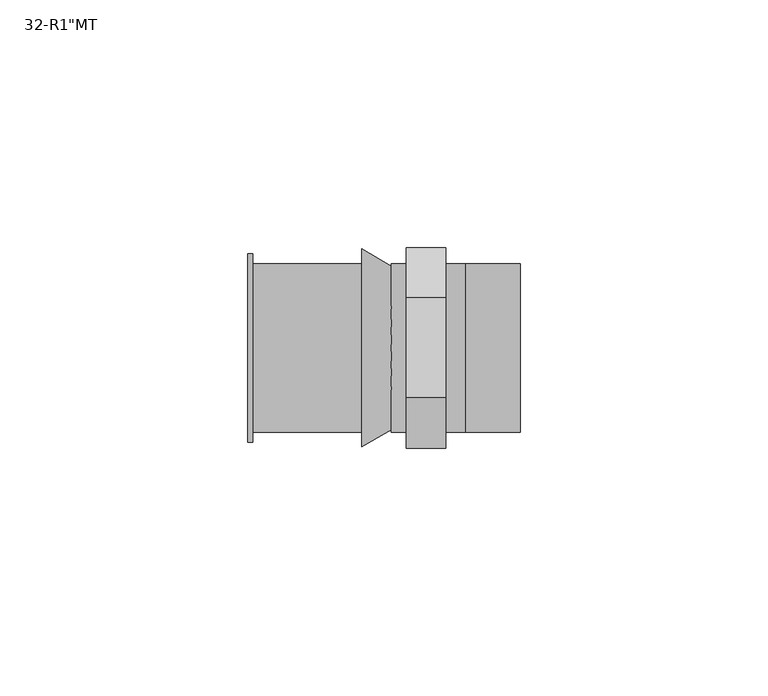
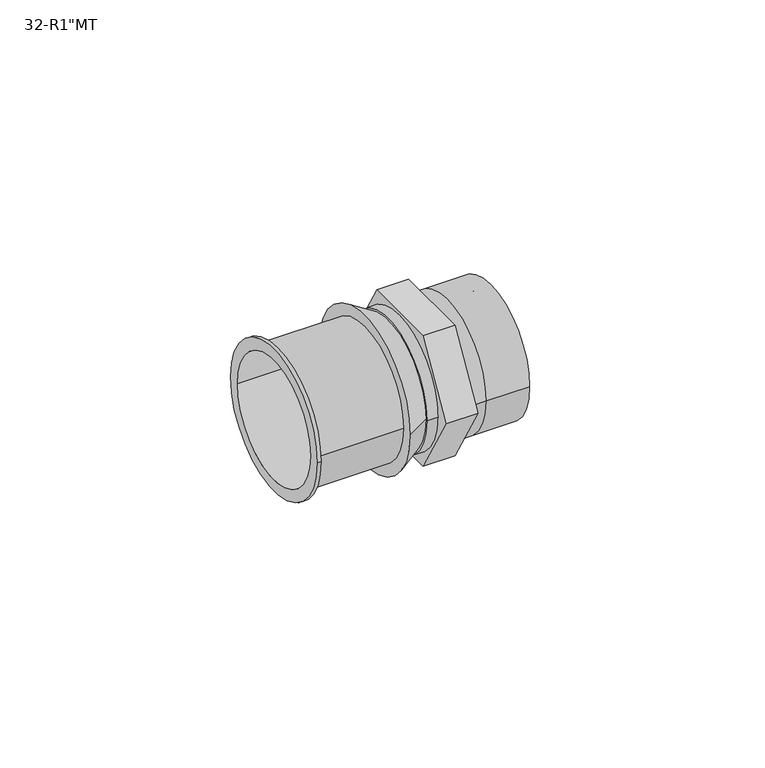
"""IFC4 building model written with IfcOpenShell, lengths in millimetres: pipe fitting geometry."""

from ifc_helpers import new_model, si_unit, point, frame, origin, origin_2d, place, context, project, spatial, polyline, circle_curve, trimmed, segment, composite_curve, outline, extrude, source, transform, mapped, element, save
from ifc_brep_helpers import plane_surface, cylinder_surface, revolved_surface, advanced_brep


def pipe_fitting_895879c1(model_context):
    return source(origin(), model_context, "Body", "SolidModel", [
        advanced_brep(
        [(-4.0, -20.2072594, 0.0), (-4.0, -10.1036297, 17.5), (-4.0, 10.1036297, 17.5), (-4.0, 20.2072594, 0.0), (-4.0, 10.1036297, -17.5), (-4.0, -10.1036297, -17.5), (4.0, -20.2072594, 0.0), (4.0, -10.1036297, -17.5), (4.0, 10.1036297, -17.5), (4.0, 20.2072594, 0.0), (4.0, 10.1036297, 17.5), (4.0, -10.1036297, 17.5), (4.0, -17.0, 0.0), (4.0, 17.0, 0.0), (19.0, -17.0, 0.0), (19.0, 17.0, 0.0), (19.0, -13.0, 0.0), (19.0, 13.0, 0.0), (8.0, 17.0, 0.0), (8.0, -17.0, 0.0), (8.0, 13.0, 0.0), (8.0, -13.0, 0.0)],
        [
            (0, 1),
            (1, 2),
            (2, 3),
            (3, 4),
            (4, 5),
            (5, 0),
            (6, 7),
            (7, 8),
            (8, 9),
            (9, 10),
            (10, 11),
            (11, 6),
            (12, 13, circle_curve(frame((4.0, 0.0, 0.0), z_axis=(-1.0, 0.0, 0.0), x_axis=(0.0, 1.0, 0.0)), 17.0)),
            (13, 12, circle_curve(frame((4.0, 0.0, 0.0), z_axis=(-1.0, 0.0, 0.0), x_axis=(0.0, 1.0, 0.0)), 17.0)),
            (0, 6),
            (11, 1),
            (10, 2),
            (9, 3),
            (8, 4),
            (7, 5),
            (14, 15, circle_curve(frame((19.0, 0.0, 0.0), z_axis=(1.0, 0.0, 0.0), x_axis=(0.0, 1.0, 0.0)), 17.0)),
            (15, 14, circle_curve(frame((19.0, 0.0, 0.0), z_axis=(1.0, 0.0, 0.0), x_axis=(0.0, 1.0, 0.0)), 17.0)),
            (16, 17, circle_curve(frame((19.0, 0.0, 0.0), z_axis=(-1.0, 0.0, 0.0), x_axis=(0.0, 1.0, 0.0)), 13.0)),
            (17, 16, circle_curve(frame((19.0, 0.0, 0.0), z_axis=(-1.0, 0.0, 0.0), x_axis=(0.0, 1.0, 0.0)), 13.0)),
            (15, 18),
            (18, 19, circle_curve(frame((8.0, 0.0, 0.0), z_axis=(1.0, 0.0, 0.0), x_axis=(0.0, 1.0, 0.0)), 17.0)),
            (19, 14),
            (19, 18, circle_curve(frame((8.0, 0.0, 0.0), z_axis=(1.0, 0.0, 0.0), x_axis=(0.0, 1.0, 0.0)), 17.0)),
            (17, 20),
            (20, 21, circle_curve(frame((8.0, 0.0, 0.0), z_axis=(-1.0, 0.0, 0.0), x_axis=(0.0, 1.0, 0.0)), 13.0)),
            (21, 16),
            (21, 20, circle_curve(frame((8.0, 0.0, 0.0), z_axis=(-1.0, 0.0, 0.0), x_axis=(0.0, 1.0, 0.0)), 13.0)),
            (12, 19),
            (18, 13),
        ],
        [
            plane_surface(frame((-4.0, 0.0, 0.0), z_axis=(-1.0, 0.0, 0.0), x_axis=(0.0, 0.0, 1.0))),
            plane_surface(frame((4.0, 0.0, 0.0), z_axis=(1.0, 0.0, 0.0), x_axis=(0.0, 0.0, 1.0))),
            plane_surface(frame((-4.0, -20.2072594, 0.0), z_axis=(0.0, -0.8660254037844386, 0.5000000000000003), x_axis=(1.0, 0.0, 0.0))),
            plane_surface(frame((-4.0, -10.1036297, 17.5), z_axis=(0.0, 0.0, 1.0), x_axis=(1.0, 0.0, 0.0))),
            plane_surface(frame((-4.0, 10.1036297, 17.5), z_axis=(0.0, 0.8660254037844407, 0.49999999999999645), x_axis=(1.0, 0.0, 0.0))),
            plane_surface(frame((-4.0, 20.2072594, 0.0), z_axis=(0.0, 0.8660254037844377, -0.5000000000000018), x_axis=(1.0, 0.0, 0.0))),
            plane_surface(frame((-4.0, 10.1036297, -17.5), z_axis=(0.0, 0.0, -1.0), x_axis=(1.0, 0.0, 0.0))),
            plane_surface(frame((-4.0, -10.1036297, -17.5), z_axis=(0.0, -0.86602540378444, -0.4999999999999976), x_axis=(1.0, 0.0, 0.0))),
            plane_surface(frame((19.0, 0.0, 0.0), z_axis=(1.0, 0.0, 0.0), x_axis=(0.0, 0.0, 1.0))),
            cylinder_surface(frame((8.0, 0.0, 0.0), z_axis=(-1.0, 0.0, 0.0), x_axis=(0.0, 1.0, 0.0)), 17.0),
            revolved_surface(polyline([(19.0, 13.0, 0.0), (8.0, 13.0, 0.0)]), (8.0, 0.0, 0.0), (1.0, 0.0, 0.0)),
            plane_surface(frame((8.0, 0.0, 0.0), z_axis=(1.0, 0.0, 0.0), x_axis=(0.0, 0.0, 1.0))),
            cylinder_surface(frame((0.0, 0.0, 0.0), z_axis=(-1.0, 0.0, 0.0), x_axis=(0.0, 1.0, 0.0)), 17.0),
        ],
        [
            (0, [[1, 2, 3, 4, 5, 6]]),
            (1, [[7, 8, 9, 10, 11, 12], [13, 14]]),
            (2, [[-1, 15, -12, 16]]),
            (3, [[-2, -16, -11, 17]]),
            (4, [[-3, -17, -10, 18]]),
            (5, [[-4, -18, -9, 19]]),
            (6, [[-5, -19, -8, 20]]),
            (7, [[-6, -20, -7, -15]]),
            (8, [[21, 22], [23, 24]]),
            (9, [[-22, 25, 26, 27]]),
            (9, [[-21, -27, 28, -25]]),
            (10, [[-24, 29, 30, 31]]),
            (10, [[-23, -31, 32, -29]]),
            (11, [[-30, -32]]),
            (12, [[33, -26, 34, -13]]),
            (12, [[-33, -14, -34, -28]]),
        ],
    ),
        advanced_brep(
        [(-36.0, -19.0, 0.0), (-36.0, 19.0, 0.0), (-36.0, -16.0, 0.0), (-36.0, 16.0, 0.0), (-13.0, -17.0, 0.0), (-13.0, 17.0, 0.0), (-13.0, -16.0, 0.0), (-13.0, 16.0, 0.0), (-35.0, 17.0, 0.0), (-35.0, -17.0, 0.0), (-35.0, -19.0, 0.0), (-35.0, 19.0, 0.0)],
        [
            (0, 1, circle_curve(frame((-36.0, 0.0, 0.0), z_axis=(-1.0, 0.0, 0.0), x_axis=(0.0, 1.0, 0.0)), 19.0)),
            (1, 0, circle_curve(frame((-36.0, 0.0, 0.0), z_axis=(-1.0, 0.0, 0.0), x_axis=(0.0, 1.0, 0.0)), 19.0)),
            (2, 3, circle_curve(frame((-36.0, 0.0, 0.0), z_axis=(1.0, 0.0, 0.0), x_axis=(0.0, 1.0, 0.0)), 16.0)),
            (3, 2, circle_curve(frame((-36.0, 0.0, 0.0), z_axis=(1.0, 0.0, 0.0), x_axis=(0.0, 1.0, 0.0)), 16.0)),
            (4, 5, circle_curve(frame((-13.0, 0.0, 0.0), z_axis=(1.0, 0.0, 0.0), x_axis=(0.0, 1.0, 0.0)), 17.0)),
            (5, 4, circle_curve(frame((-13.0, 0.0, 0.0), z_axis=(1.0, 0.0, 0.0), x_axis=(0.0, 1.0, 0.0)), 17.0)),
            (6, 7, circle_curve(frame((-13.0, 0.0, 0.0), z_axis=(-1.0, 0.0, 0.0), x_axis=(0.0, 1.0, 0.0)), 16.0)),
            (7, 6, circle_curve(frame((-13.0, 0.0, 0.0), z_axis=(-1.0, 0.0, 0.0), x_axis=(0.0, 1.0, 0.0)), 16.0)),
            (2, 6),
            (7, 3),
            (5, 8),
            (8, 9, circle_curve(frame((-35.0, 0.0, 0.0), z_axis=(1.0, 0.0, 0.0), x_axis=(0.0, 1.0, 0.0)), 17.0)),
            (9, 4),
            (9, 8, circle_curve(frame((-35.0, 0.0, 0.0), z_axis=(1.0, 0.0, 0.0), x_axis=(0.0, 1.0, 0.0)), 17.0)),
            (10, 11, circle_curve(frame((-35.0, 0.0, 0.0), z_axis=(1.0, 0.0, 0.0), x_axis=(0.0, 1.0, 0.0)), 19.0)),
            (11, 10, circle_curve(frame((-35.0, 0.0, 0.0), z_axis=(1.0, 0.0, 0.0), x_axis=(0.0, 1.0, 0.0)), 19.0)),
            (0, 10),
            (11, 1),
        ],
        [
            plane_surface(frame((-36.0, 0.0, 0.0), z_axis=(-1.0, 0.0, 0.0), x_axis=(0.0, 0.0, 1.0))),
            plane_surface(frame((-13.0, 0.0, 0.0), z_axis=(1.0, 0.0, 0.0), x_axis=(0.0, 0.0, 1.0))),
            revolved_surface(polyline([(-13.0, 16.0, 0.0), (-36.0, 16.0, 0.0)]), (-36.0, 0.0, 0.0), (1.0, 0.0, 0.0)),
            cylinder_surface(frame((-36.0, 0.0, 0.0), z_axis=(-1.0, 0.0, 0.0), x_axis=(0.0, 1.0, 0.0)), 17.0),
            plane_surface(frame((-35.0, 0.0, 0.0), z_axis=(1.0, 0.0, 0.0), x_axis=(0.0, 0.0, 1.0))),
            cylinder_surface(frame((-36.0, 0.0, 0.0), z_axis=(-1.0, 0.0, 0.0), x_axis=(0.0, 1.0, 0.0)), 19.0),
        ],
        [
            (0, [[1, 2], [3, 4]]),
            (1, [[5, 6], [7, 8]]),
            (2, [[-3, 9, -8, 10]]),
            (2, [[-4, -10, -7, -9]]),
            (3, [[-6, 11, 12, 13]]),
            (3, [[-5, -13, 14, -11]]),
            (4, [[15, 16], [-12, -14]]),
            (5, [[-1, 17, -16, 18]]),
            (5, [[-2, -18, -15, -17]]),
        ],
    ),
        advanced_brep(
        [(-7.0, -16.5, 0.0), (-7.0, 16.5, 0.0), (-7.0, 16.0, 0.0), (-7.0, -16.0, 0.0), (-13.0, -20.0, 0.0), (-13.0, 20.0, 0.0), (-13.0, -16.0, 0.0), (-13.0, 16.0, 0.0)],
        [
            (0, 1, circle_curve(frame((-7.0, 0.0, 0.0), z_axis=(1.0, 0.0, 0.0), x_axis=(0.0, -1.0, 0.0)), 16.5)),
            (1, 0, circle_curve(frame((-7.0, 0.0, 0.0), z_axis=(1.0, 0.0, 0.0), x_axis=(0.0, 1.0, 0.0)), 16.5)),
            (2, 3, circle_curve(frame((-7.0, 0.0, 0.0), z_axis=(-1.0, 0.0, 0.0), x_axis=(0.0, 1.0, 0.0)), 16.0)),
            (3, 2, circle_curve(frame((-7.0, 0.0, 0.0), z_axis=(-1.0, 0.0, 0.0), x_axis=(0.0, 1.0, 0.0)), 16.0)),
            (4, 5, circle_curve(frame((-13.0, 0.0, 0.0), z_axis=(-1.0, 0.0, 0.0), x_axis=(0.0, 1.0, 0.0)), 20.0)),
            (5, 4, circle_curve(frame((-13.0, 0.0, 0.0), z_axis=(-1.0, 0.0, 0.0), x_axis=(0.0, -1.0, 0.0)), 20.0)),
            (6, 7, circle_curve(frame((-13.0, 0.0, 0.0), z_axis=(1.0, 0.0, 0.0), x_axis=(0.0, 1.0, 0.0)), 16.0)),
            (7, 6, circle_curve(frame((-13.0, 0.0, 0.0), z_axis=(1.0, 0.0, 0.0), x_axis=(0.0, 1.0, 0.0)), 16.0)),
            (0, 4),
            (5, 1),
            (2, 7),
            (6, 3),
        ],
        [
            plane_surface(frame((-7.0, 0.0, 0.0), z_axis=(1.0, 0.0, 0.0), x_axis=(0.0, 0.0, -1.0))),
            plane_surface(frame((-13.0, 0.0, 0.0), z_axis=(-1.0, 0.0, 0.0), x_axis=(0.0, 0.0, -1.0))),
            revolved_surface(polyline([(-7.0, -16.500000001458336, 0.0), (-12.999999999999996, -20.0, 0.0)]), (21.2857143, 0.0, 0.0), (-1.0, 0.0, 0.0)),
            revolved_surface(polyline([(-7.0, 16.500000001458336, 0.0), (-12.999999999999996, 20.0, 0.0)]), (21.2857143, 0.0, 0.0), (-1.0, 0.0, 0.0)),
            revolved_surface(polyline([(-7.0, 16.0, 0.0), (-13.0, 16.0, 0.0)]), (-13.0, 0.0, 0.0), (1.0, 0.0, 0.0)),
        ],
        [
            (0, [[1, 2], [3, 4]]),
            (1, [[5, 6], [7, 8]]),
            (2, [[-1, 9, -6, 10]]),
            (3, [[-2, -10, -5, -9]]),
            (4, [[11, -7, 12, -3]]),
            (4, [[-11, -4, -12, -8]]),
        ],
    ),
        extrude(outline(composite_curve([segment(trimmed(circle_curve(origin_2d(), 17.0), [point((-17.0, 0.0))], [point((17.0, 0.0))], False, "CARTESIAN"), True, "CONTINUOUS"), segment(trimmed(circle_curve(origin_2d(), 17.0), [point((17.0, 0.0))], [point((-17.0, 0.0))], False, "CARTESIAN"), True, "CONTINUOUS")], self_intersect=False)), frame((-7.0, 0.0, 0.0), z_axis=(1.0, 0.0, 0.0), x_axis=(0.0, 1.0, 0.0)), (0.0, 0.0, 1.0), 3.0),
    ])


if __name__ == "__main__":
    model = new_model("IFC4")
    model_context = context("Model", 3, world=origin())
    ifc_project = project(units=[si_unit("LENGTHUNIT", "METRE", prefix="MILLI")], contexts=[model_context])
    site = spatial("IfcSite", under=ifc_project)
    building = spatial("IfcBuilding", under=site)
    placement = place(None, origin())
    pipe_fitting_shape = pipe_fitting_895879c1(model_context)
    element("IfcPipeFitting", 1, ObjectType="SuperPipe_AdapterMT : 32-R1\"MT", at=placement, inside=building, context=model_context, shape_type="MappedRepresentation", body=[
        mapped(pipe_fitting_shape, transform((0.0, 0.0, 0.0), x_axis=(1.0, 0.0, 0.0), y_axis=(0.0, 1.0, 0.0), z_axis=(0.0, 0.0, 1.0))),
    ])
    save(model, "model.ifc")
